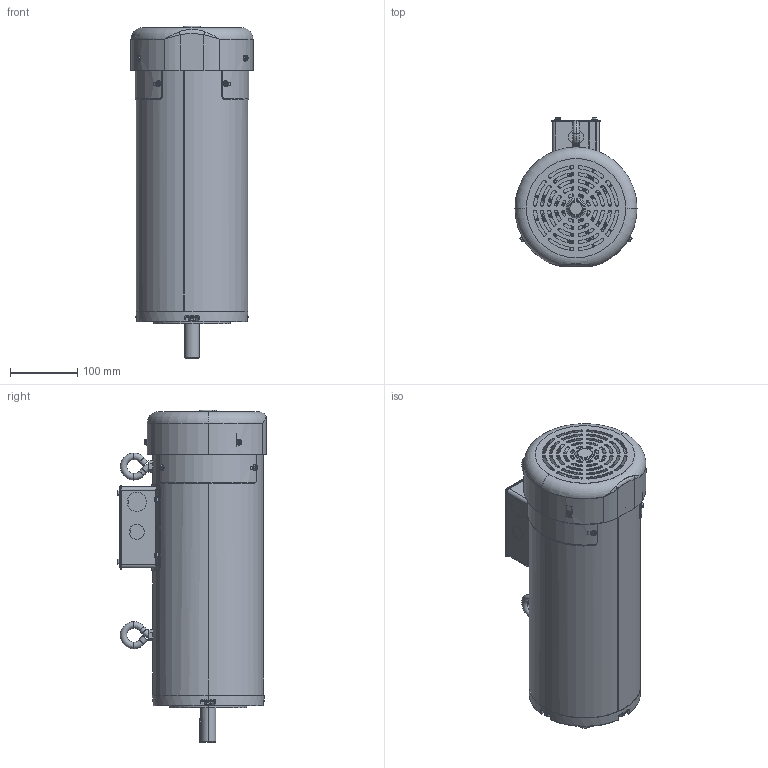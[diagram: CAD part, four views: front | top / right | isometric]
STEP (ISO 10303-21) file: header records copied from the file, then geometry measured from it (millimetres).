
FILE_DESCRIPTION (( 'STEP AP203' ), '1' );
FILE_NAME ('612-0079-DC136_Rev01.STEP', '2018-06-05T12:50:27', ( 'RBC' ), ( 'RBC' ), 'SwSTEP 2.0', 'SolidWorks 2015', '' );
FILE_SCHEMA (( 'CONFIG_CONTROL_DESIGN' ));
Length unit declared in the file: inch
Products named in the file (1): 612-0079-DC136_Rev01
Bounding box: 181.56 x 221.39 x 493.76 mm (x, y, z)
Volume: 2450655.8 mm3; surface area: 917376.1 mm2
Topology: 45 solids, 45 shells, 3928 faces, 9618 edges, 5791 vertices
Faces by surface type: cylinder 1215, plane 1186, bspline 680, cone 391, torus 310, sphere 146
Entity records: 147398 total; most frequent: CARTESIAN_POINT 60273, ORIENTED_EDGE 19000, DIRECTION 17338, EDGE_CURVE 9500, AXIS2_PLACEMENT_3D 7007, VERTEX_POINT 5791, EDGE_LOOP 4257, ADVANCED_FACE 3928
